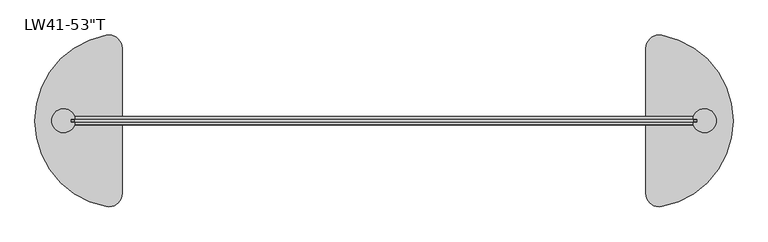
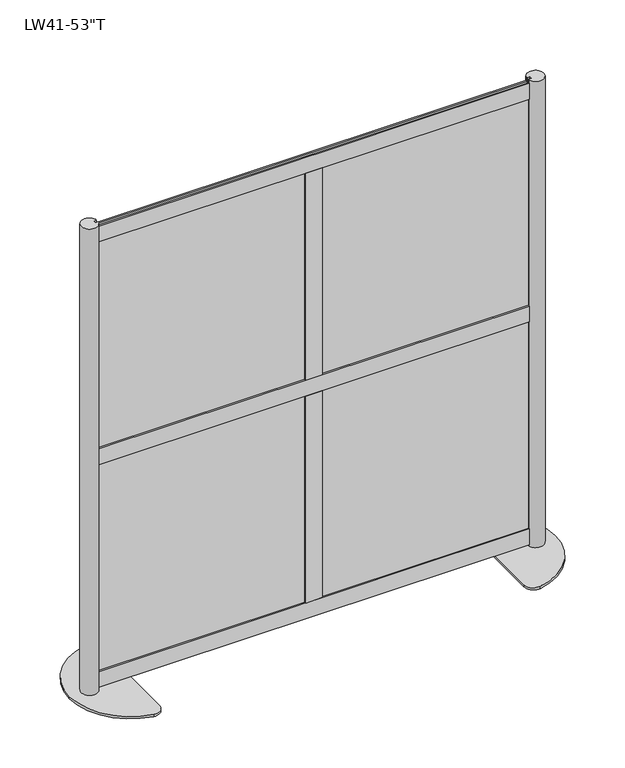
"""IFC4 building model written with IfcOpenShell, lengths in millimetres: furniture geometry."""

from ifc_helpers import new_model, si_unit, point, frame, frame_2d, origin, origin_with_axes, place, context, project, spatial, polyline, circle_curve, trimmed, segment, composite_curve, outline, extrude, source, transform, mapped, element, save


def furniture_49637d3a(model_context):
    return source(origin(), model_context, "Body", "SweptSolid", [
        extrude(outline(polyline([(592.9137189, 1.5875), (592.9138926, -1.5875), (15.0638917, -1.5875), (15.063718, 1.5875), (592.9137189, 1.5875)])), frame((0.0, 0.0, 689.2671), z_axis=(0.0, 0.0, 1.0), x_axis=(1.0, 0.0, 0.0)), (0.0, 0.0, 1.0), 608.965),
        extrude(outline(polyline([(-592.9137189, 1.5875), (-15.063718, 1.5875), (-15.0638917, -1.5875), (-592.9138926, -1.5875), (-592.9137189, 1.5875)])), frame((0.0, 0.0, 689.2671), z_axis=(0.0, 0.0, 1.0), x_axis=(1.0, 0.0, 0.0)), (0.0, 0.0, 1.0), 608.965),
        extrude(outline(polyline([(592.9137189, 1.5875), (592.9138926, -1.5875), (15.0638917, -1.5875), (15.063718, 1.5875), (592.9137189, 1.5875)])), frame((0.0, 0.0, 49.2633), z_axis=(0.0, 0.0, 1.0), x_axis=(1.0, 0.0, 0.0)), (0.0, 0.0, 1.0), 608.965),
        extrude(outline(polyline([(-592.9137189, 1.5875), (-15.063718, 1.5875), (-15.0638917, -1.5875), (-592.9138926, -1.5875), (-592.9137189, 1.5875)])), frame((0.0, 0.0, 49.2633), z_axis=(0.0, 0.0, 1.0), x_axis=(1.0, 0.0, 0.0)), (0.0, 0.0, 1.0), 608.965),
        extrude(outline(polyline([(-22.6314, 3.556), (-22.6314, 7.6327), (22.6314, 7.6327), (22.6314, 3.556), (15.5194, 3.556), (15.5194, -3.556), (22.6314, -3.556), (22.6314, -7.6327), (-22.6314, -7.6327), (-22.6314, -3.556), (-15.5194, -3.556), (-15.5194, 3.556), (-22.6314, 3.556)])), frame((0.0, 0.0, 56.3753), z_axis=(0.0, 0.0, 1.0), x_axis=(1.0, 0.0, 0.0)), (0.0, 0.0, 1.0), 594.741),
        extrude(outline(polyline([(-22.6314, 3.556), (-22.6314, 7.6327), (22.6314, 7.6327), (22.6314, 3.556), (15.5194, 3.556), (15.5194, -3.556), (22.6314, -3.556), (22.6314, -7.6327), (-22.6314, -7.6327), (-22.6314, -3.556), (-15.5194, -3.556), (-15.5194, 3.556), (-22.6314, 3.556)])), frame((0.0, 0.0, 696.3791), z_axis=(0.0, 0.0, 1.0), x_axis=(1.0, 0.0, 0.0)), (0.0, 0.0, 1.0), 594.741),
        extrude(outline(polyline([(3.556, 651.1163), (3.556, 658.2283), (-3.556, 658.2283), (-3.556, 651.1163), (-7.6327, 651.1163), (-7.6327, 696.3791), (-3.556, 696.3791), (-3.556, 689.2671), (3.556, 689.2671), (3.556, 696.3791), (7.6327, 696.3791), (7.6327, 651.1163), (3.556, 651.1163)])), frame((-584.9874, 0.0, 0.0), z_axis=(1.0, 0.0, 0.0), x_axis=(0.0, 1.0, 0.0)), (0.0, 0.0, 1.0), 1169.9748),
        extrude(outline(polyline([(3.556, 11.1125), (3.556, 18.2245), (-3.556, 18.2245), (-3.556, 11.1125), (-7.6327, 11.1125), (-7.6327, 56.3753), (-3.556, 56.3753), (-3.556, 49.2633), (3.556, 49.2633), (3.556, 56.3753), (7.6327, 56.3753), (7.6327, 11.1125), (3.556, 11.1125)])), frame((-585.0636, 0.0, 0.0), z_axis=(1.0, 0.0, 0.0), x_axis=(0.0, 1.0, 0.0)), (0.0, 0.0, 1.0), 1170.1272),
        extrude(outline(polyline([(3.556, 1291.1200292), (3.556, 1298.2320292), (-3.556, 1298.2320292), (-3.556, 1291.1200292), (-7.6327, 1291.1200292), (-7.6327, 1336.3828292), (-3.556, 1336.3828292), (-3.556, 1329.2708292), (3.556, 1329.2708292), (3.556, 1336.3828292), (7.6327, 1336.3828292), (7.6327, 1291.1200292), (3.556, 1291.1200292)])), frame((-585.0636, 0.0, 0.0), z_axis=(1.0, 0.0, 0.0), x_axis=(0.0, 1.0, 0.0)), (0.0, 0.0, 1.0), 1170.1272),
        extrude(outline(composite_curve([segment(polyline([(585.0636, -7.7568093), (585.0636, -3.556), (592.1756, -3.556), (592.1756, 3.556), (585.0636, 3.556), (585.0636, 7.7568093)]), True, "CONTINUOUS"), segment(trimmed(circle_curve(frame_2d((606.1665837, 0.0)), 22.4834163), [point((585.0636, 7.7568093))], [point((585.0636, -7.7568093))], False, "CARTESIAN"), True, "CONTINUOUS")], self_intersect=False)), frame((0.0, 0.0, 6.35), z_axis=(0.0, 0.0, 1.0), x_axis=(1.0, 0.0, 0.0)), (0.0, 0.0, 1.0), 1339.85),
        extrude(outline(composite_curve([segment(polyline([(495.3, -137.3715036), (495.3, 137.3715036)]), True, "CONTINUOUS"), segment(trimmed(circle_curve(frame_2d((520.7, 137.3715036)), 25.4), [point((495.3, 137.3715036))], [point((525.3181818, 162.3481406))], False, "CARTESIAN"), True, "CONTINUOUS"), segment(trimmed(circle_curve(frame_2d((495.3, 0.0)), 165.1), [point((525.3181818, 162.3481406))], [point((660.4, 0.0))], False, "CARTESIAN"), True, "CONTINUOUS"), segment(trimmed(circle_curve(frame_2d((495.3, 0.0)), 165.1), [point((660.4, 0.0))], [point((525.3181818, -162.3481406))], False, "CARTESIAN"), True, "CONTINUOUS"), segment(trimmed(circle_curve(frame_2d((520.7, -137.3715036)), 25.4), [point((525.3181818, -162.3481406))], [point((495.3, -137.3715036))], False, "CARTESIAN"), True, "CONTINUOUS")], self_intersect=False)), origin_with_axes(), (0.0, 0.0, 1.0), 6.35),
        extrude(outline(composite_curve([segment(trimmed(circle_curve(frame_2d((-606.1665837, 0.0)), 22.4834163), [point((-585.0636, -7.7568093))], [point((-585.0636, 7.7568093))], False, "CARTESIAN"), True, "CONTINUOUS"), segment(polyline([(-585.0636, 7.7568093), (-585.0636, 3.556), (-592.1756, 3.556), (-592.1756, -3.556), (-585.0636, -3.556), (-585.0636, -7.7568093)]), True, "CONTINUOUS")], self_intersect=False)), frame((0.0, 0.0, 6.35), z_axis=(0.0, 0.0, 1.0), x_axis=(1.0, 0.0, 0.0)), (0.0, 0.0, 1.0), 1339.85),
        extrude(outline(composite_curve([segment(trimmed(circle_curve(frame_2d((-520.7, -137.3715036)), 25.4), [point((-495.3, -137.3715036))], [point((-525.3181818, -162.3481406))], False, "CARTESIAN"), True, "CONTINUOUS"), segment(trimmed(circle_curve(frame_2d((-495.3, 0.0)), 165.1), [point((-525.3181818, -162.3481406))], [point((-660.4, 0.0))], False, "CARTESIAN"), True, "CONTINUOUS"), segment(trimmed(circle_curve(frame_2d((-495.3, 0.0)), 165.1), [point((-660.4, 0.0))], [point((-525.3181818, 162.3481406))], False, "CARTESIAN"), True, "CONTINUOUS"), segment(trimmed(circle_curve(frame_2d((-520.7, 137.3715036)), 25.4), [point((-525.3181818, 162.3481406))], [point((-495.3, 137.3715036))], False, "CARTESIAN"), True, "CONTINUOUS"), segment(polyline([(-495.3, 137.3715036), (-495.3, -137.3715036)]), True, "CONTINUOUS")], self_intersect=False)), origin_with_axes(), (0.0, 0.0, 1.0), 6.35),
    ])


if __name__ == "__main__":
    model = new_model("IFC4")
    model_context = context("Model", 3, world=origin())
    ifc_project = project(units=[si_unit("LENGTHUNIT", "METRE", prefix="MILLI")], contexts=[model_context])
    site = spatial("IfcSite", under=ifc_project)
    building = spatial("IfcBuilding", under=site)
    placement = place(None, origin())
    furniture_shape = furniture_49637d3a(model_context)
    element("IfcFurniture", 1, ObjectType="Loft_Wall-Framewall-52 : LW41-53\"T", at=placement, inside=building, context=model_context, shape_type="MappedRepresentation", body=[
        mapped(furniture_shape, transform((0.0, 0.0, 0.0), x_axis=(1.0, 0.0, 0.0), y_axis=(0.0, 1.0, 0.0), z_axis=(0.0, 0.0, 1.0))),
    ])
    save(model, "model.ifc")
